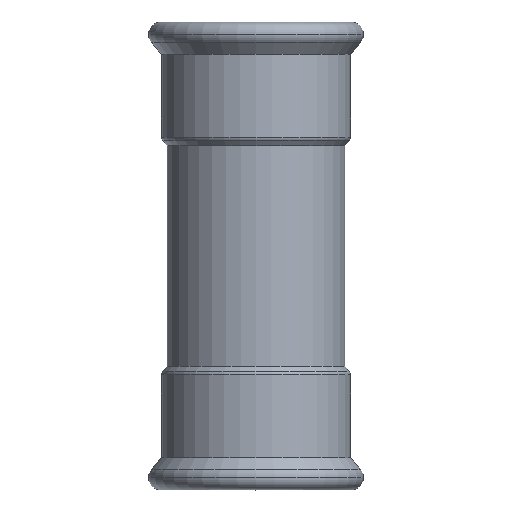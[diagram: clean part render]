
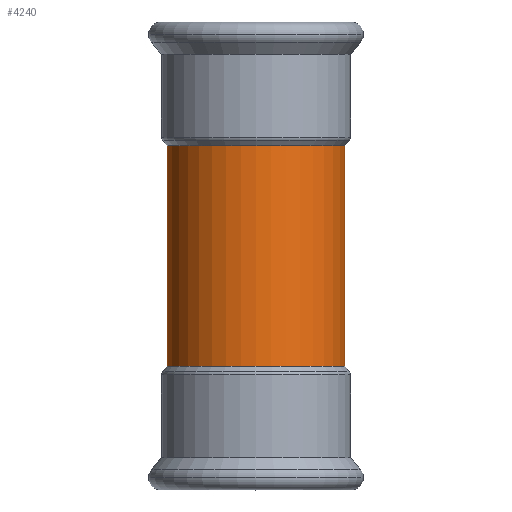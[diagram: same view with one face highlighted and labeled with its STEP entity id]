
A CAD part, top view. The second image highlights one B-rep face of the part: STEP entity #4240.
In plain terms, the highlighted cylindrical face has radius 27 mm (diameter 54 mm), a partial arc.
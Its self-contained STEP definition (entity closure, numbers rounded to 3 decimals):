
#3830=CARTESIAN_POINT('',(-319.291,1.435,
-33.5));
#3840=DIRECTION('',(0.,0.,-1.));
#3850=DIRECTION('',(1.,0.,0.));
#3860=AXIS2_PLACEMENT_3D('',#3830,#3840,#3850);
#3870=CYLINDRICAL_SURFACE('',#3860,27.);
#3880=CARTESIAN_POINT('',(-292.291,1.435,
-33.5));
#3890=DIRECTION('',(0.,0.,-1.));
#3900=VECTOR('',#3890,1.);
#3910=LINE('',#3880,#3900);
#3920=CARTESIAN_POINT('',(-292.291,1.435,
33.5));
#3930=VERTEX_POINT('',#3920);
#3940=CARTESIAN_POINT('',(-292.291,1.435,
-33.5));
#3950=VERTEX_POINT('',#3940);
#3960=EDGE_CURVE('',#3930,#3950,#3910,.T.);
#3970=ORIENTED_EDGE('',*,*,#3960,.F.);
#3980=CARTESIAN_POINT('',(-319.291,1.435,
-33.5));
#3990=DIRECTION('',(0.,0.,-1.));
#4000=DIRECTION('',(1.,0.,0.));
#4010=AXIS2_PLACEMENT_3D('',#3980,#3990,#4000);
#4020=CIRCLE('',#4010,27.);
#4030=CARTESIAN_POINT('',(-346.291,1.435,
-33.5));
#4040=VERTEX_POINT('',#4030);
#4050=EDGE_CURVE('',#3950,#4040,#4020,.T.);
#4060=ORIENTED_EDGE('',*,*,#4050,.F.);
#4070=CARTESIAN_POINT('',(-346.291,1.435,
-33.5));
#4080=DIRECTION('',(0.,0.,-1.));
#4090=VECTOR('',#4080,1.);
#4100=LINE('',#4070,#4090);
#4110=CARTESIAN_POINT('',(-346.291,1.435,
33.5));
#4120=VERTEX_POINT('',#4110);
#4130=EDGE_CURVE('',#4120,#4040,#4100,.T.);
#4140=ORIENTED_EDGE('',*,*,#4130,.T.);
#4150=CARTESIAN_POINT('',(-319.291,1.435,
33.5));
#4160=DIRECTION('',(0.,0.,1.));
#4170=DIRECTION('',(1.,0.,0.));
#4180=AXIS2_PLACEMENT_3D('',#4150,#4160,#4170);
#4190=CIRCLE('',#4180,27.);
#4200=EDGE_CURVE('',#4120,#3930,#4190,.T.);
#4210=ORIENTED_EDGE('',*,*,#4200,.F.);
#4220=EDGE_LOOP('',(#4210,#4140,#4060,#3970));
#4230=FACE_OUTER_BOUND('',#4220,.T.);
#4240=ADVANCED_FACE('',(#4230),#3870,.T.);
